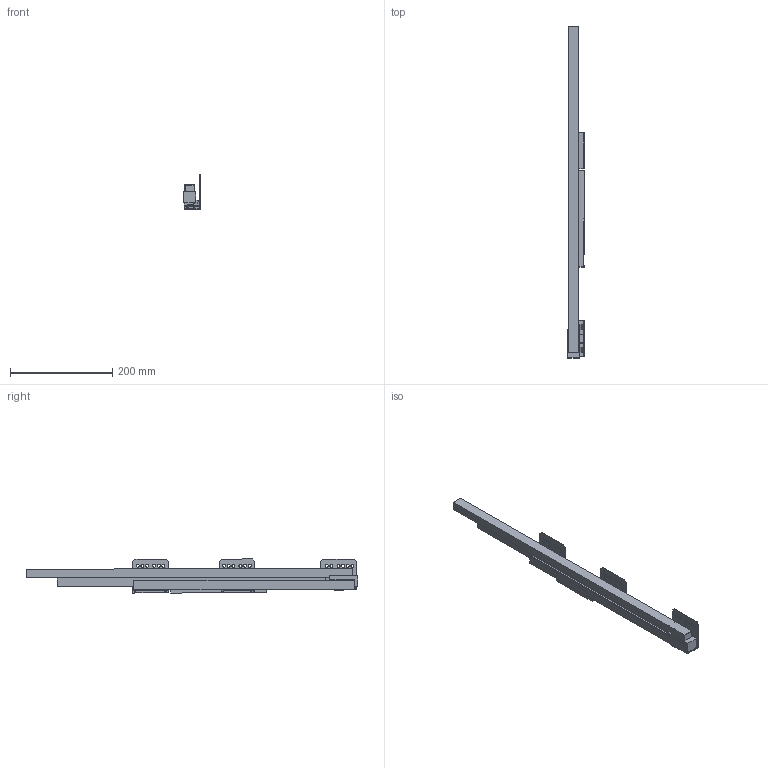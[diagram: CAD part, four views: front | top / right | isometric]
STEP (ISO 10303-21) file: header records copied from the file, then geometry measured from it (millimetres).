
FILE_DESCRIPTION (( 'STEP AP214' ), '1' );
FILE_NAME ('_IMOS Dynamic-XP VA 60kg NL650 RE.step', '2010-07-07T08:07:54', ( 'grass' ), ( '' ), 'SwSTEP 2.0', 'SolidWorks 2010', '' );
FILE_SCHEMA (( 'AUTOMOTIVE_DESIGN' ));
Length unit declared in the file: millimetre
Products named in the file (1): _IMOS Dynamic-XP VA 60kg NL650 RE
Bounding box: 32.79 x 649.89 x 66.67 mm (x, y, z)
Volume: 516008.3 mm3; surface area: 194204.9 mm2
Topology: 8 solids, 8 shells, 205 faces, 567 edges, 378 vertices
Faces by surface type: plane 141, cylinder 64
Entity records: 6754 total; most frequent: CARTESIAN_POINT 1151, ORIENTED_EDGE 1134, DIRECTION 1107, EDGE_CURVE 567, LINE 439, VECTOR 439, VERTEX_POINT 378, AXIS2_PLACEMENT_3D 334
